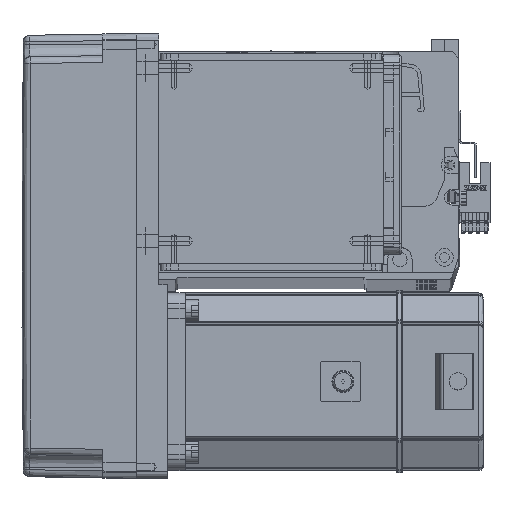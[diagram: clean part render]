
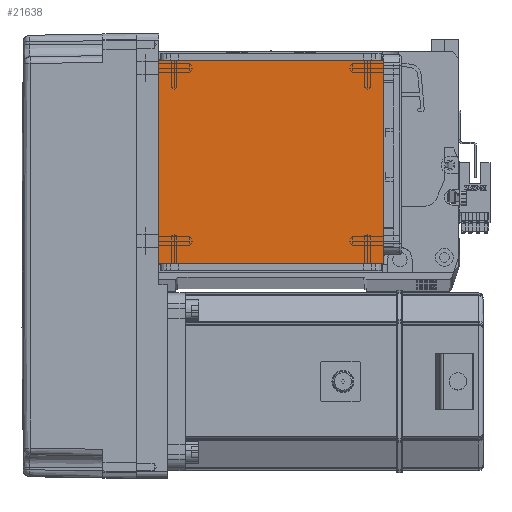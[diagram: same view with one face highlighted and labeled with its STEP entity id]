
A CAD part, top view. The second image highlights one B-rep face of the part: STEP entity #21638.
In plain terms, the highlighted planar face has unit normal (0, 0, 1).
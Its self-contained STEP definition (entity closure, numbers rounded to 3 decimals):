
#4452 = LINE ( 'NONE', #31861, #57057 ) ;
#5041 = EDGE_LOOP ( 'NONE', ( #12109, #45996, #13883, #46362 ) ) ;
#6635 = LINE ( 'NONE', #37762, #14548 ) ;
#7146 = VERTEX_POINT ( 'NONE', #65813 ) ;
#9463 = CARTESIAN_POINT ( 'NONE',  ( -70.004, 111.5, 115. ) ) ;
#11108 = DIRECTION ( 'NONE',  ( 0., 1., 0. ) ) ;
#12109 = ORIENTED_EDGE ( 'NONE', *, *, #45417, .F. ) ;
#13883 = ORIENTED_EDGE ( 'NONE', *, *, #31297, .F. ) ;
#14548 = VECTOR ( 'NONE', #17389, 1000. ) ;
#17389 = DIRECTION ( 'NONE',  ( -1., 0., 0. ) ) ;
#17788 = CARTESIAN_POINT ( 'NONE',  ( -50.5, 20., 115. ) ) ;
#18074 = VERTEX_POINT ( 'NONE', #40850 ) ;
#21638 = ADVANCED_FACE ( 'NONE', ( #50275 ), #48647, .T. ) ;
#23080 = LINE ( 'NONE', #9463, #59674 ) ;
#26557 = LINE ( 'NONE', #65539, #64742 ) ;
#26675 = AXIS2_PLACEMENT_3D ( 'NONE', #53500, #33266, #38421 ) ;
#30828 = CARTESIAN_POINT ( 'NONE',  ( 50.5, 20., 115. ) ) ;
#31297 = EDGE_CURVE ( 'NONE', #63259, #50556, #6635, .T. ) ;
#31861 = CARTESIAN_POINT ( 'NONE',  ( 50.5, 122., 115. ) ) ;
#33266 = DIRECTION ( 'NONE',  ( 0., 0., 1. ) ) ;
#35163 = DIRECTION ( 'NONE',  ( 0., -1., 0. ) ) ;
#35809 = EDGE_CURVE ( 'NONE', #63259, #18074, #4452, .T. ) ;
#37130 = EDGE_CURVE ( 'NONE', #7146, #50556, #26557, .T. ) ;
#37762 = CARTESIAN_POINT ( 'NONE',  ( -70.004, 20., 115. ) ) ;
#38421 = DIRECTION ( 'NONE',  ( 1., 0., 0. ) ) ;
#40850 = CARTESIAN_POINT ( 'NONE',  ( 50.5, 111.5, 115. ) ) ;
#45417 = EDGE_CURVE ( 'NONE', #7146, #18074, #23080, .T. ) ;
#45996 = ORIENTED_EDGE ( 'NONE', *, *, #37130, .T. ) ;
#46362 = ORIENTED_EDGE ( 'NONE', *, *, #35809, .T. ) ;
#48647 = PLANE ( 'NONE',  #26675 ) ;
#50271 = DIRECTION ( 'NONE',  ( 1., 0., 0. ) ) ;
#50275 = FACE_OUTER_BOUND ( 'NONE', #5041, .T. ) ;
#50556 = VERTEX_POINT ( 'NONE', #17788 ) ;
#53500 = CARTESIAN_POINT ( 'NONE',  ( 0., 0., 115. ) ) ;
#57057 = VECTOR ( 'NONE', #11108, 1000. ) ;
#59674 = VECTOR ( 'NONE', #50271, 1000. ) ;
#63259 = VERTEX_POINT ( 'NONE', #30828 ) ;
#64742 = VECTOR ( 'NONE', #35163, 1000. ) ;
#65539 = CARTESIAN_POINT ( 'NONE',  ( -50.5, 122., 115. ) ) ;
#65813 = CARTESIAN_POINT ( 'NONE',  ( -50.5, 111.5, 115. ) ) ;
